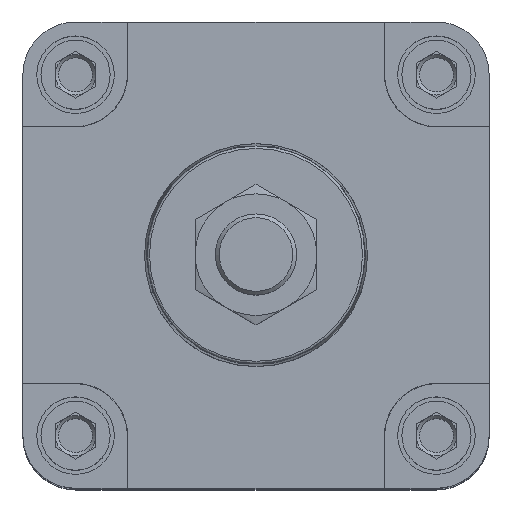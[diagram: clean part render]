
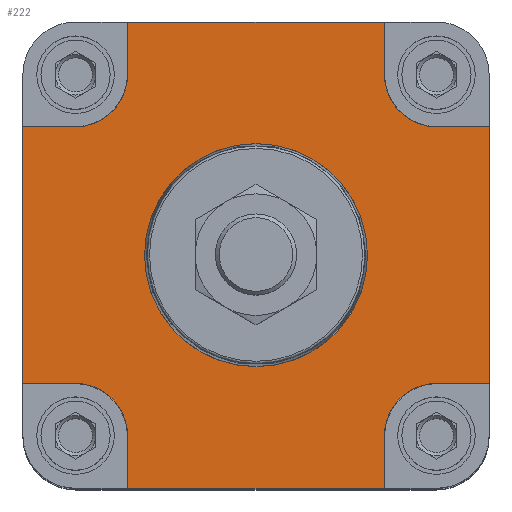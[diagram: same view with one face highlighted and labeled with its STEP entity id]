
A CAD part, top view. The second image highlights one B-rep face of the part: STEP entity #222.
In plain terms, the highlighted planar face has unit normal (0, 0, 1) as drawn and (0, 0, -1) by its records, which use the part's own axes.
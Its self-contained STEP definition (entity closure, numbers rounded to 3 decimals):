
#222 = ADVANCED_FACE( '', ( #650, #651 ), #652, .F. );
#650 = FACE_BOUND( '', #1541, .T. );
#651 = FACE_OUTER_BOUND( '', #1542, .T. );
#652 = PLANE( '', #1543 );
#1541 = EDGE_LOOP( '', ( #2476 ) );
#1542 = EDGE_LOOP( '', ( #2477, #2478, #2479, #2480, #2481, #2482, #2483, #2484, #2485, #2486, #2487, #2488, #2489, #2490, #2491, #2492 ) );
#1543 = AXIS2_PLACEMENT_3D( '', #2493, #2494, #2495 );
#2476 = ORIENTED_EDGE( '', *, *, #5447, .F. );
#2477 = ORIENTED_EDGE( '', *, *, #5448, .F. );
#2478 = ORIENTED_EDGE( '', *, *, #5449, .F. );
#2479 = ORIENTED_EDGE( '', *, *, #5450, .T. );
#2480 = ORIENTED_EDGE( '', *, *, #5451, .F. );
#2481 = ORIENTED_EDGE( '', *, *, #5452, .F. );
#2482 = ORIENTED_EDGE( '', *, *, #5453, .F. );
#2483 = ORIENTED_EDGE( '', *, *, #5454, .T. );
#2484 = ORIENTED_EDGE( '', *, *, #5455, .F. );
#2485 = ORIENTED_EDGE( '', *, *, #5456, .F. );
#2486 = ORIENTED_EDGE( '', *, *, #5457, .F. );
#2487 = ORIENTED_EDGE( '', *, *, #5458, .T. );
#2488 = ORIENTED_EDGE( '', *, *, #5459, .F. );
#2489 = ORIENTED_EDGE( '', *, *, #5460, .F. );
#2490 = ORIENTED_EDGE( '', *, *, #5461, .F. );
#2491 = ORIENTED_EDGE( '', *, *, #5462, .T. );
#2492 = ORIENTED_EDGE( '', *, *, #5463, .F. );
#2493 = CARTESIAN_POINT( '', ( -44.5, -44.5, -238. ) );
#2494 = DIRECTION( '', ( 0., 0., 1. ) );
#2495 = DIRECTION( '', ( 1., 0., 0. ) );
#5447 = EDGE_CURVE( '', #6396, #6396, #6397, .F. );
#5448 = EDGE_CURVE( '', #6398, #6399, #6400, .T. );
#5449 = EDGE_CURVE( '', #6401, #6398, #6402, .T. );
#5450 = EDGE_CURVE( '', #6401, #6403, #6404, .T. );
#5451 = EDGE_CURVE( '', #6405, #6403, #6406, .T. );
#5452 = EDGE_CURVE( '', #6407, #6405, #6408, .T. );
#5453 = EDGE_CURVE( '', #6409, #6407, #6410, .T. );
#5454 = EDGE_CURVE( '', #6409, #6411, #6412, .T. );
#5455 = EDGE_CURVE( '', #6413, #6411, #6414, .T. );
#5456 = EDGE_CURVE( '', #6415, #6413, #6416, .T. );
#5457 = EDGE_CURVE( '', #6417, #6415, #6418, .T. );
#5458 = EDGE_CURVE( '', #6417, #6419, #6420, .T. );
#5459 = EDGE_CURVE( '', #6421, #6419, #6422, .T. );
#5460 = EDGE_CURVE( '', #6423, #6421, #6424, .T. );
#5461 = EDGE_CURVE( '', #6425, #6423, #6426, .T. );
#5462 = EDGE_CURVE( '', #6425, #6427, #6428, .T. );
#5463 = EDGE_CURVE( '', #6399, #6427, #6429, .T. );
#6396 = VERTEX_POINT( '', #7995 );
#6397 = CIRCLE( '', #7996, 27.5 );
#6398 = VERTEX_POINT( '', #7997 );
#6399 = VERTEX_POINT( '', #7998 );
#6400 = LINE( '', #7999, #8000 );
#6401 = VERTEX_POINT( '', #8001 );
#6402 = LINE( '', #8002, #8003 );
#6403 = VERTEX_POINT( '', #8004 );
#6404 = CIRCLE( '', #8005, 13. );
#6405 = VERTEX_POINT( '', #8006 );
#6406 = LINE( '', #8007, #8008 );
#6407 = VERTEX_POINT( '', #8009 );
#6408 = LINE( '', #8010, #8011 );
#6409 = VERTEX_POINT( '', #8012 );
#6410 = LINE( '', #8013, #8014 );
#6411 = VERTEX_POINT( '', #8015 );
#6412 = CIRCLE( '', #8016, 13. );
#6413 = VERTEX_POINT( '', #8017 );
#6414 = LINE( '', #8018, #8019 );
#6415 = VERTEX_POINT( '', #8020 );
#6416 = LINE( '', #8021, #8022 );
#6417 = VERTEX_POINT( '', #8023 );
#6418 = LINE( '', #8024, #8025 );
#6419 = VERTEX_POINT( '', #8026 );
#6420 = CIRCLE( '', #8027, 13. );
#6421 = VERTEX_POINT( '', #8028 );
#6422 = LINE( '', #8029, #8030 );
#6423 = VERTEX_POINT( '', #8031 );
#6424 = LINE( '', #8032, #8033 );
#6425 = VERTEX_POINT( '', #8034 );
#6426 = LINE( '', #8035, #8036 );
#6427 = VERTEX_POINT( '', #8037 );
#6428 = CIRCLE( '', #8038, 13. );
#6429 = LINE( '', #8039, #8040 );
#7995 = CARTESIAN_POINT( '', ( 27.5, 0., -238. ) );
#7996 = AXIS2_PLACEMENT_3D( '', #10240, #10241, #10242 );
#7997 = CARTESIAN_POINT( '', ( -57.5, 31.61, -238. ) );
#7998 = CARTESIAN_POINT( '', ( -57.5, -31.61, -238. ) );
#7999 = CARTESIAN_POINT( '', ( -57.5, 44.5, -238. ) );
#8000 = VECTOR( '', #10243, 1000. );
#8001 = CARTESIAN_POINT( '', ( -44.65, 31.61, -238. ) );
#8002 = CARTESIAN_POINT( '', ( -44.65, 31.61, -238. ) );
#8003 = VECTOR( '', #10244, 1000. );
#8004 = CARTESIAN_POINT( '', ( -31.65, 44.61, -238. ) );
#8005 = AXIS2_PLACEMENT_3D( '', #10245, #10246, #10247 );
#8006 = CARTESIAN_POINT( '', ( -31.65, 57.5, -238. ) );
#8007 = CARTESIAN_POINT( '', ( -31.65, 57.5, -238. ) );
#8008 = VECTOR( '', #10248, 1000. );
#8009 = CARTESIAN_POINT( '', ( 31.65, 57.5, -238. ) );
#8010 = CARTESIAN_POINT( '', ( 44.5, 57.5, -238. ) );
#8011 = VECTOR( '', #10249, 1000. );
#8012 = CARTESIAN_POINT( '', ( 31.65, 44.61, -238. ) );
#8013 = CARTESIAN_POINT( '', ( 31.65, 44.61, -238. ) );
#8014 = VECTOR( '', #10250, 1000. );
#8015 = CARTESIAN_POINT( '', ( 44.65, 31.61, -238. ) );
#8016 = AXIS2_PLACEMENT_3D( '', #10251, #10252, #10253 );
#8017 = CARTESIAN_POINT( '', ( 57.5, 31.61, -238. ) );
#8018 = CARTESIAN_POINT( '', ( 57.5, 31.61, -238. ) );
#8019 = VECTOR( '', #10254, 1000. );
#8020 = CARTESIAN_POINT( '', ( 57.5, -31.61, -238. ) );
#8021 = CARTESIAN_POINT( '', ( 57.5, -44.5, -238. ) );
#8022 = VECTOR( '', #10255, 1000. );
#8023 = CARTESIAN_POINT( '', ( 44.65, -31.61, -238. ) );
#8024 = CARTESIAN_POINT( '', ( 44.65, -31.61, -238. ) );
#8025 = VECTOR( '', #10256, 1000. );
#8026 = CARTESIAN_POINT( '', ( 31.65, -44.61, -238. ) );
#8027 = AXIS2_PLACEMENT_3D( '', #10257, #10258, #10259 );
#8028 = CARTESIAN_POINT( '', ( 31.65, -57.5, -238. ) );
#8029 = CARTESIAN_POINT( '', ( 31.65, -57.5, -238. ) );
#8030 = VECTOR( '', #10260, 1000. );
#8031 = CARTESIAN_POINT( '', ( -31.65, -57.5, -238. ) );
#8032 = CARTESIAN_POINT( '', ( -44.5, -57.5, -238. ) );
#8033 = VECTOR( '', #10261, 1000. );
#8034 = CARTESIAN_POINT( '', ( -31.65, -44.61, -238. ) );
#8035 = CARTESIAN_POINT( '', ( -31.65, -44.61, -238. ) );
#8036 = VECTOR( '', #10262, 1000. );
#8037 = CARTESIAN_POINT( '', ( -44.65, -31.61, -238. ) );
#8038 = AXIS2_PLACEMENT_3D( '', #10263, #10264, #10265 );
#8039 = CARTESIAN_POINT( '', ( -57.5, -31.61, -238. ) );
#8040 = VECTOR( '', #10266, 1000. );
#10240 = CARTESIAN_POINT( '', ( 0., 0., -238. ) );
#10241 = DIRECTION( '', ( 0., 0., 1. ) );
#10242 = DIRECTION( '', ( 1., 0., 0. ) );
#10243 = DIRECTION( '', ( 0., -1., 0. ) );
#10244 = DIRECTION( '', ( -1., 0., 0. ) );
#10245 = CARTESIAN_POINT( '', ( -44.65, 44.61, -238. ) );
#10246 = DIRECTION( '', ( 0., 0., 1. ) );
#10247 = DIRECTION( '', ( 1., 0., 0. ) );
#10248 = DIRECTION( '', ( 0., -1., 0. ) );
#10249 = DIRECTION( '', ( -1., 0., 0. ) );
#10250 = DIRECTION( '', ( 0., 1., 0. ) );
#10251 = CARTESIAN_POINT( '', ( 44.65, 44.61, -238. ) );
#10252 = DIRECTION( '', ( 0., 0., 1. ) );
#10253 = DIRECTION( '', ( 1., 0., 0. ) );
#10254 = DIRECTION( '', ( -1., 0., 0. ) );
#10255 = DIRECTION( '', ( 0., 1., 0. ) );
#10256 = DIRECTION( '', ( 1., 0., 0. ) );
#10257 = CARTESIAN_POINT( '', ( 44.65, -44.61, -238. ) );
#10258 = DIRECTION( '', ( 0., 0., 1. ) );
#10259 = DIRECTION( '', ( 1., 0., 0. ) );
#10260 = DIRECTION( '', ( 0., 1., 0. ) );
#10261 = DIRECTION( '', ( 1., 0., 0. ) );
#10262 = DIRECTION( '', ( 0., -1., 0. ) );
#10263 = CARTESIAN_POINT( '', ( -44.65, -44.61, -238. ) );
#10264 = DIRECTION( '', ( 0., 0., 1. ) );
#10265 = DIRECTION( '', ( 1., 0., 0. ) );
#10266 = DIRECTION( '', ( 1., 0., 0. ) );
